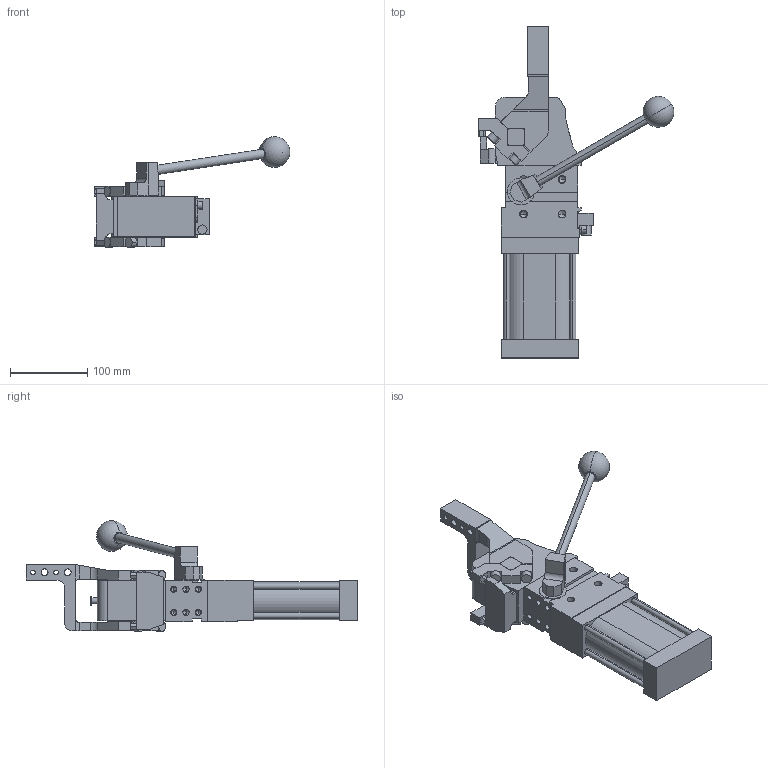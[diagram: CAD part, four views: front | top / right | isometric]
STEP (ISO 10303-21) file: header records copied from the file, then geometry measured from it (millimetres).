
FILE_DESCRIPTION (( 'STEP AP214' ), '1' );
FILE_NAME ('cplm63lath1ssi1g_75.STEP', '2023-01-26T14:49:25', ( '' ), ( '' ), 'SwSTEP 2.0', 'SolidWorks 2022', '' );
FILE_SCHEMA (( 'AUTOMOTIVE_DESIGN' ));
Length unit declared in the file: millimetre
Products named in the file (5): cplm63lath1ssi1g_75; leva_h1ss_cpl63t; meccanica_cplm_63_tassello_esterno; comando_manuale_cplm_63; blocchetto_VEP_0
Assembly tree (4 placements, depth 2):
  cplm63lath1ssi1g_75
    meccanica_cplm_63_tassello_esterno
    blocchetto_VEP_0
    leva_h1ss_cpl63t
    comando_manuale_cplm_63
Bounding box: 254.06 x 430.5 x 143.5 mm (x, y, z)
Volume: 1909933.2 mm3; surface area: 216710.5 mm2
Topology: 4 solids, 4 shells, 467 faces, 1233 edges, 769 vertices
Faces by surface type: plane 248, cylinder 167, cone 50, sphere 2
Entity records: 15710 total; most frequent: CARTESIAN_POINT 2524, DIRECTION 2488, ORIENTED_EDGE 2364, EDGE_CURVE 1182, AXIS2_PLACEMENT_3D 844, LINE 800, VECTOR 800, VERTEX_POINT 766
